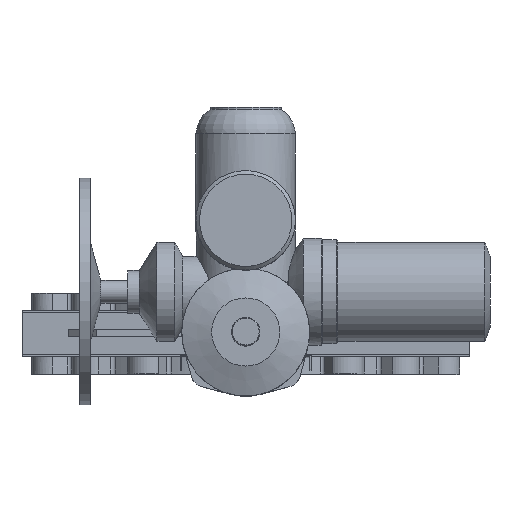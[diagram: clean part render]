
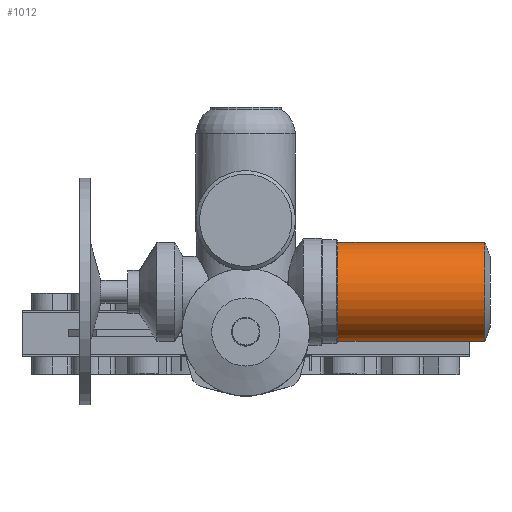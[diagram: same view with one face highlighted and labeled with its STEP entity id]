
A CAD part, top view. The second image highlights one B-rep face of the part: STEP entity #1012.
In plain terms, the highlighted cylindrical face has radius 70 mm (diameter 140 mm), a full revolution.
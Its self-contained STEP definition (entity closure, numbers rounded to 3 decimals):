
#1012=ADVANCED_FACE('',(#2049,#2051),#2053,.T.);
#2049=FACE_OUTER_BOUND('',#2050,.T.);
#2050=EDGE_LOOP('',(#5101));
#2051=FACE_OUTER_BOUND('',#2052,.T.);
#2052=EDGE_LOOP('',(#5102));
#2053=CYLINDRICAL_SURFACE('',#2054,70.);
#2054=AXIS2_PLACEMENT_3D('',#2055,#2056,#2057);
#2055=CARTESIAN_POINT('',(336.721,57.,1367.));
#2056=DIRECTION('',(-1.,0.,0.));
#2057=DIRECTION('',(0.,0.,1.));
#5101=ORIENTED_EDGE('',*,*,#7449,.T.);
#5102=ORIENTED_EDGE('',*,*,#7446,.F.);
#7446=EDGE_CURVE('',#9294,#9294,#9295,.T.);
#7449=EDGE_CURVE('',#9300,#9300,#9301,.T.);
#9294=VERTEX_POINT('',#11944);
#9295=CIRCLE('',#11945,70.);
#9300=VERTEX_POINT('',#11959);
#9301=CIRCLE('',#11960,70.);
#11944=CARTESIAN_POINT('',(129.807,57.,1437.));
#11945=AXIS2_PLACEMENT_3D('',#11946,#11947,#11948);
#11946=CARTESIAN_POINT('',(129.807,57.,1367.));
#11947=DIRECTION('',(-1.,0.,0.));
#11948=DIRECTION('',(0.,0.,1.));
#11959=CARTESIAN_POINT('',(336.721,57.,1437.));
#11960=AXIS2_PLACEMENT_3D('',#11961,#11962,#11963);
#11961=CARTESIAN_POINT('',(336.721,57.,1367.));
#11962=DIRECTION('',(-1.,0.,0.));
#11963=DIRECTION('',(0.,0.,1.));
